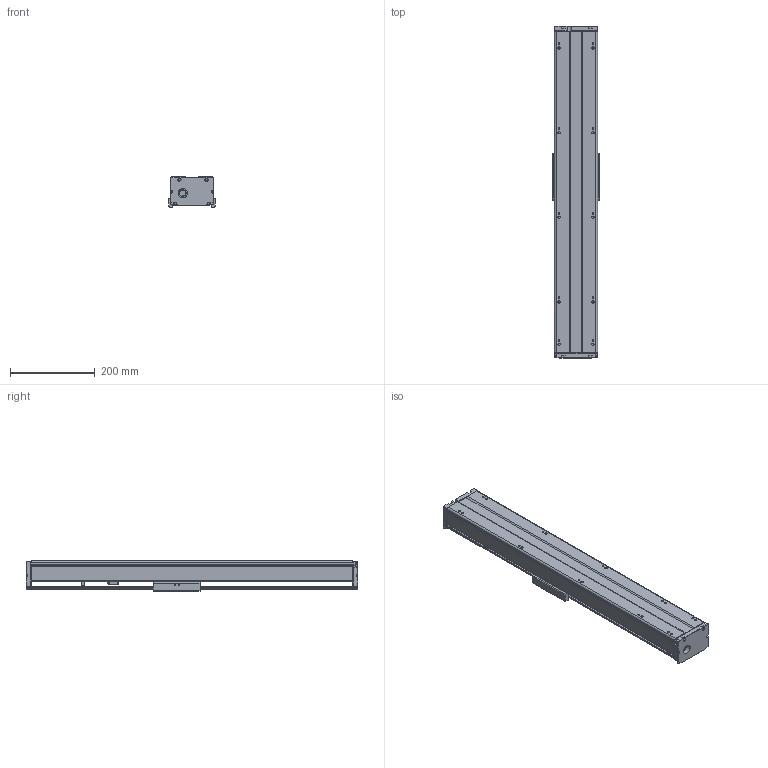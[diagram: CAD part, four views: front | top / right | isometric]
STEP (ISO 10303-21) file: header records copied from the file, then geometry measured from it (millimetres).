
FILE_DESCRIPTION(/* description */ (''),/* implementation_level */ '2;1');
FILE_NAME(/* name */ 'TKA100-400A1FI_asm1.stp',/* time_stamp */ '2017-02-21T08:30:44+08:00',/* author */ (''),/* organization */ (''),/* preprocessor_version */ 'ST-DEVELOPER v15',/* originating_system */ 'SIEMENS PLM Software NX 8.5',/* authorisation */ '');
FILE_SCHEMA (('AUTOMOTIVE_DESIGN { 1 0 10303 214 3 1 1 1 }'));
Length unit declared in the file: millimetre
Products named in the file (3): 200-02; 200-01; TKA100-400A1FI_asm1_stp
Assembly tree (2 placements, depth 2):
  TKA100-400A1FI_asm1_stp
    200-01
    200-02
Bounding box: 110 x 784 x 71 mm (x, y, z)
Volume: 1756879.8 mm3; surface area: 563979.8 mm2
Topology: 2 solids, 9 shells, 849 faces, 2190 edges, 1387 vertices
Faces by surface type: plane 357, cylinder 285, cone 147, torus 34, bspline 26
Full cylindrical faces by diameter (mm): 2.5 x4, 2.6 x8, 3.3 x8, 3.4 x4, 3.8 x4, 4.2 x19, 4.3 x4, 4.5 x4, 5 x1, 5.5 x22, 6.6 x4, 8 x5, 9 x4, 10 x10, 11 x4, 12 x7, 15.3 x1, 16 x1, 22 x1, 24 x1, 28 x5, 30 x1
Entity records: 30256 total; most frequent: CARTESIAN_POINT 10496, DIRECTION 4104, ORIENTED_EDGE 3842, EDGE_CURVE 1921, AXIS2_PLACEMENT_3D 1582, VERTEX_POINT 1316, EDGE_LOOP 1131, LINE 940
